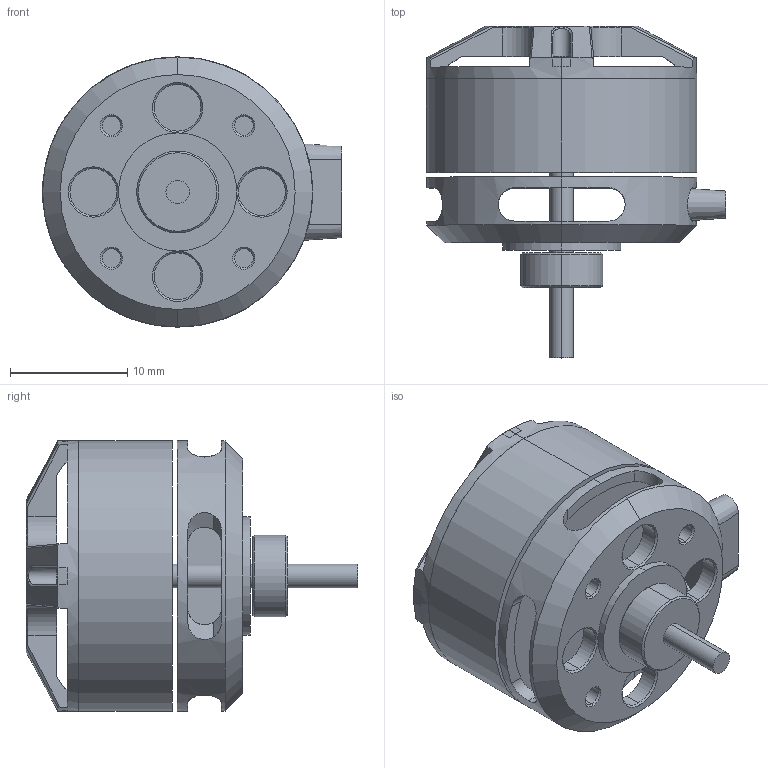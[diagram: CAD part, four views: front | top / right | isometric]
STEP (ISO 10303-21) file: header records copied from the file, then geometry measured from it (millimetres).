
FILE_DESCRIPTION (( 'STEP AP214' ), '1' );
FILE_NAME ('FT1806.STEP', '2023-06-22T20:01:39', ( '' ), ( '' ), 'SwSTEP 2.0', 'SolidWorks 2015', '' );
FILE_SCHEMA (( 'AUTOMOTIVE_DESIGN' ));
Length unit declared in the file: millimetre
Products named in the file (1): FT1806
Bounding box: 25.55 x 28.35 x 23.1 mm (x, y, z)
Volume: 4805.8 mm3; surface area: 3754.1 mm2
Topology: 1 solids, 1 shells, 217 faces, 616 edges, 389 vertices
Faces by surface type: cylinder 79, cone 60, plane 58, bspline 20
Entity records: 9939 total; most frequent: CARTESIAN_POINT 4087, ORIENTED_EDGE 1232, DIRECTION 1123, EDGE_CURVE 616, AXIS2_PLACEMENT_3D 443, VERTEX_POINT 389, EDGE_LOOP 253, CIRCLE 245
